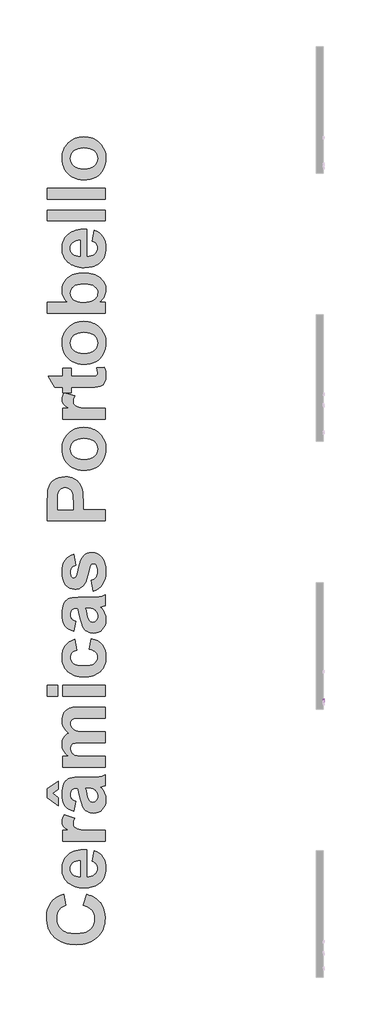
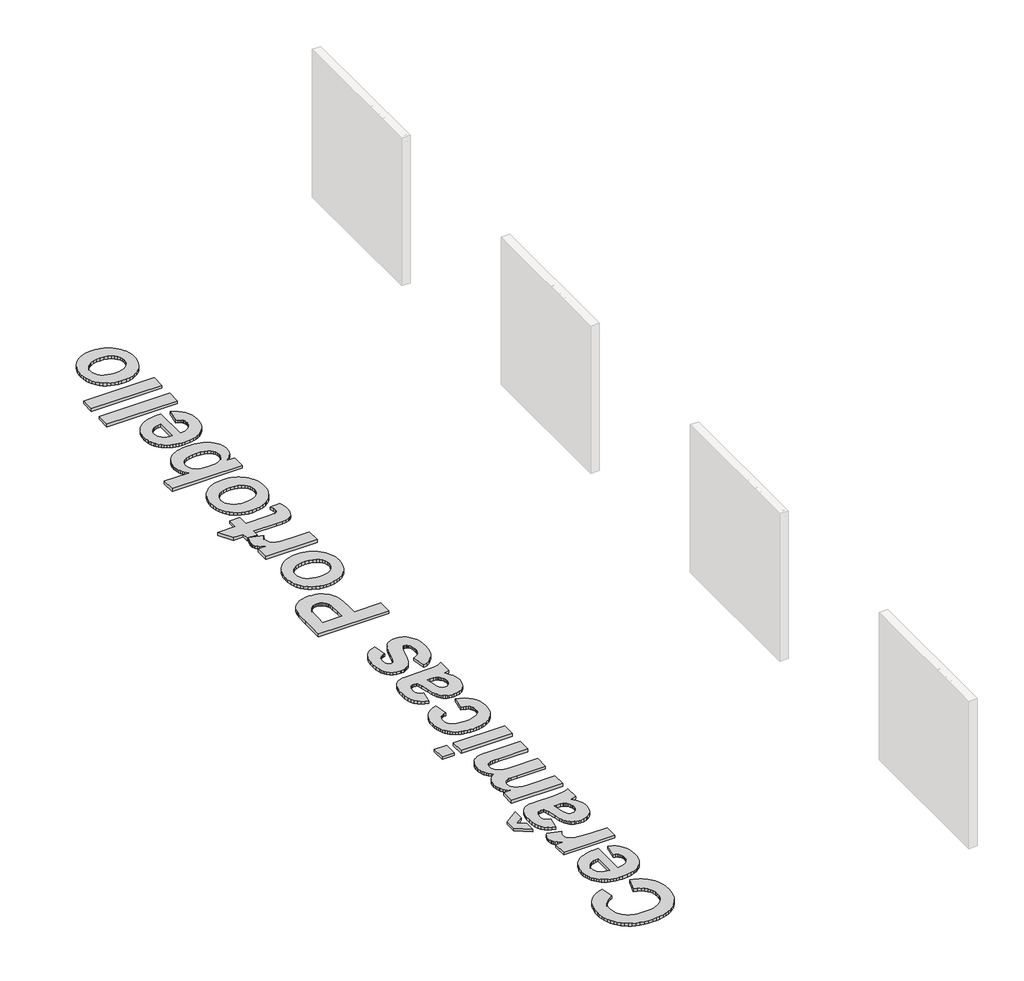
# One storey, part 4 of 9: 2 proxies.
"""IFC4 building model written with IfcOpenShell, lengths in millimetres."""

from ifc_helpers import new_model, si_unit, frame, origin, origin_with_axes, place, context, project, spatial, polyline, outline, extrude, element, save

model = new_model("IFC4")

# Units and contexts
model_context = context("Model", 3, world=origin())
ifc_project = project(units=[si_unit("LENGTHUNIT", "METRE", prefix="MILLI")], contexts=[model_context])

# Site, building, storey
site = spatial("IfcSite", under=ifc_project)
building = spatial("IfcBuilding", under=site)
storey = spatial("IfcBuildingStorey", under=building, Name="PORTOBELLO - SHOWROOM", Elevation=0.0)

# Proxies
placement = place(None, origin())
element("IfcBuildingElementProxy", 1, Name="10mm Arial", ObjectType="10mm Arial", at=placement, inside=storey, context=model_context, shape_type="SweptSolid", body=[
    extrude(outline(polyline([(3761.8829418, 2408.5886452), (3774.4399806, 2410.158275), (3780.0808379, 2398.1775847), (3790.7739412, 2394.4619766), (3800.939747, 2396.8532096), (3807.831403, 2403.2420935), (3811.9394186, 2414.1559261), (3813.7543031, 2428.7240531), (3813.6807267, 2431.1765997), (3803.6375483, 2421.6607188), (3789.8664989, 2418.0064243), (3778.4161718, 2420.2382417), (3768.8849625, 2426.933694), (3762.4562246, 2437.2773095), (3760.313312, 2450.4536163), (3762.5604578, 2464.0652501), (3769.3018954, 2474.7338279), (3779.4278473, 2481.6316153), (3791.8285362, 2483.9308778), (3809.7198639, 2478.682428), (3822.031648, 2463.7218935), (3826.2377655, 2435.6157091), (3822.0439108, 2405.1182917), (3816.8291835, 2395.1272299), (3809.5727111, 2387.8401007), (3800.5871934, 2383.3887285), (3790.18533, 2381.9049378), (3779.4493071, 2383.655443), (3770.883788, 2388.9069585), (3764.8934428, 2397.3283905), (3761.8829418, 2408.5886452)]), holes=[polyline([(3813.6807267, 2450.7479218), (3812.3256947, 2459.2582587), (3808.2605987, 2465.8065582), (3801.9514225, 2469.9820188), (3793.8641499, 2471.373839), (3785.4764404, 2469.8747199), (3778.7564627, 2465.3773625), (3774.3418787, 2458.4949035), (3772.8703507, 2449.8404796), (3774.262171, 2442.0812352), (3778.4376316, 2435.9222774), (3784.9920625, 2431.9031666), (3793.5207934, 2430.563463), (3808.0030813, 2435.9222774), (3812.2613154, 2442.3080957), (3813.6807267, 2450.7479218)])]), frame((-17115.5080774, 0.0, 0.0), z_axis=(1.0, 0.0, 0.0), x_axis=(0.0, 1.0, 0.0)), (0.0, 0.0, 1.0), 20.0),
    extrude(outline(polyline([(3832.5162849, 2383.4745677), (3859.3471451, 2420.5815982), (3834.0859147, 2457.2471704), (3849.1445511, 2457.2471704), (3861.3337079, 2439.5643092), (3867.0481415, 2431.2501761), (3872.0022857, 2438.0682557), (3885.8836997, 2457.2471704), (3900.9913869, 2457.2471704), (3874.4548323, 2420.5570728), (3900.0103683, 2383.4745677), (3884.9272065, 2383.4745677), (3869.5252136, 2405.792742), (3866.7293104, 2409.8884949), (3847.6239722, 2383.4745677), (3832.5162849, 2383.4745677)])), frame((-17115.5080774, 0.0, 0.0), z_axis=(1.0, 0.0, 0.0), x_axis=(0.0, 1.0, 0.0)), (0.0, 0.0, 1.0), 20.0),
    extrude(outline(polyline([(3907.8585175, 2410.158275), (3920.4155563, 2411.7279049), (3927.3440005, 2398.5086785), (3940.3057095, 2394.4619766), (3948.9141482, 2395.8537968), (3955.5605496, 2400.0292574), (3961.2259323, 2413.8125695), (3955.6096005, 2426.798804), (3941.3357791, 2431.9368892), (3932.5311367, 2430.563463), (3933.9290882, 2443.1205018), (3935.9401765, 2442.973349), (3950.1894724, 2446.5785926), (3954.9351502, 2451.152592), (3956.5170427, 2457.6641034), (3951.9307805, 2467.4865526), (3940.1095058, 2471.373839), (3928.1410782, 2467.4497644), (3921.9851861, 2455.6775406), (3909.4281474, 2457.2471704), (3913.1253614, 2468.5227536), (3919.7043178, 2476.9411199), (3928.7051639, 2482.1834383), (3939.6680474, 2483.9308778), (3954.8125228, 2480.4850498), (3965.4075243, 2471.0672707), (3969.0740815, 2458.3998673), (3965.5914653, 2446.8238472), (3955.2907694, 2438.5097141), (3968.9759796, 2429.9258009), (3973.782971, 2413.5918403), (3971.3794753, 2401.3536326), (3964.1689882, 2391.1265132), (3953.2858125, 2384.2103317), (3939.8642511, 2381.9049378), (3927.7241453, 2383.8731065), (3917.8403823, 2389.7776125), (3910.9671204, 2398.8091155), (3907.8585175, 2410.158275)])), frame((-17115.5080774, 0.0, 0.0), z_axis=(1.0, 0.0, 0.0), x_axis=(0.0, 1.0, 0.0)), (0.0, 0.0, 1.0), 20.0),
    extrude(outline(polyline([(3984.77038, 2469.8042092), (3984.77038, 2482.361248), (4050.6948335, 2482.361248), (4050.6948335, 2472.2077049), (4031.9941654, 2445.1929037), (4017.6835558, 2410.7714117), (4013.0237172, 2383.4745677), (4000.4666784, 2383.4745677), (4005.4576108, 2411.8014813), (4019.1550838, 2443.8194776), (4038.1377947, 2469.8042092), (3984.77038, 2469.8042092)])), frame((-17115.5080774, 0.0, 0.0), z_axis=(1.0, 0.0, 0.0), x_axis=(0.0, 1.0, 0.0)), (0.0, 0.0, 1.0), 20.0),
])
element("IfcBuildingElementProxy", 2, Name="1200mm Arial", ObjectType="1200mm Arial", at=placement, inside=storey, context=model_context, shape_type="SweptSolid", body=[
    extrude(outline(polyline([(-22223.5662561, -490.4529479), (-22145.8322066, -257.2507994), (-22098.1475103, -272.210239), (-22053.627402, -289.4565323), (-22012.2718818, -308.9896794), (-21974.0809497, -330.8096802), (-21939.0546057, -354.9165348), (-21907.1928498, -381.3102432), (-21878.4956819, -409.9908053), (-21852.9631021, -440.9582211), (-21830.5097092, -474.1508121), (-21811.050102, -509.5068995), (-21794.5842805, -547.0264835), (-21781.1122448, -586.709564), (-21770.6339948, -628.5561409), (-21763.1495305, -672.5662144), (-21757.161959, -767.0768507), (-21759.7192498, -826.8244634), (-21767.3911223, -883.8487274), (-21780.1775763, -938.1496427), (-21798.078612, -989.7272094), (-21821.0942294, -1038.5814274), (-21849.2244283, -1084.7122967), (-21882.4692089, -1128.1198174), (-21920.8285711, -1168.8039895), (-21963.62405, -1205.6688311), (-22010.1771807, -1237.6183605), (-22060.4879633, -1264.6525776), (-22114.5563976, -1286.7714826), (-22172.3824838, -1303.9750753), (-22233.9662217, -1316.2633559), (-22299.3076115, -1323.6363242), (-22368.4066531, -1326.0939803), (-22441.3867037, -1323.6149739), (-22510.1726077, -1316.1779547), (-22574.7643649, -1303.7829227), (-22635.1619754, -1286.4298779), (-22691.3654392, -1264.1188203), (-22743.3747562, -1236.8497499), (-22791.1899266, -1204.6226666), (-22834.8109502, -1167.4375706), (-22873.7396536, -1126.2101522), (-22907.4778632, -1081.8561018), (-22936.025579, -1034.3754194), (-22959.3828011, -983.768105), (-22977.5495293, -930.0341586), (-22990.5257638, -873.1735802), (-22998.3115045, -813.1863698), (-23000.9067513, -750.0725274), (-22998.7669774, -694.9223448), (-22992.3476556, -642.4290877), (-22981.6487858, -592.5927562), (-22966.6703682, -545.4133501), (-22947.4124027, -500.8908696), (-22923.8748893, -459.0253146), (-22896.057828, -419.8166852), (-22863.9612188, -383.2649812), (-22819.1540677, -343.8475933), (-22765.5031502, -309.7061004), (-22703.0084664, -280.8405024), (-22631.6700161, -257.2507994), (-22592.8029914, -490.4529479), (-22635.5130691, -505.1514395), (-22673.459659, -526.1696182), (-22706.6427609, -553.507484), (-22735.062375, -587.1650369), (-22757.8455113, -625.9656385), (-22774.1191801, -668.7326504), (-22783.8833814, -715.4660725), (-22787.1381152, -766.1659048), (-22781.2264559, -835.4642158), (-22773.8368818, -867.5442192), (-22763.491478, -897.9114546), (-22750.1902446, -926.5659219), (-22733.9331816, -953.5076211), (-22714.7202889, -978.7365523), (-22692.5515666, -1002.2527154), (-22667.0759209, -1023.4962583), (-22637.9422582, -1041.9073288), (-22605.1505783, -1057.4859269), (-22568.7008813, -1070.2320526), (-22528.5931672, -1080.145706), (-22484.827436, -1087.226887), (-22386.3219223, -1092.8918317), (-22282.0565737, -1087.3976893), (-22235.9873829, -1080.5300113), (-22193.9605146, -1070.9152621), (-22155.9759687, -1058.5534416), (-22122.0337452, -1043.44455), (-22092.133844, -1025.5885871), (-22066.2762653, -1004.9855531), (-22043.9296239, -982.1810664), (-22024.5625346, -957.7207459), (-22008.1749976, -931.6045914), (-21994.7670127, -903.8326029), (-21984.3385801, -874.4047805), (-21976.8896996, -843.3211242), (-21970.9305952, -776.1863097), (-21974.7356921, -726.2076428), (-21986.1509828, -679.8158254), (-22005.1764674, -637.0108575), (-22031.8121457, -597.792739), (-22066.627359, -563.0154817), (-22110.1914486, -533.5330975), (-22162.5044143, -509.3455862), (-22223.5662561, -490.4529479)])), origin_with_axes(), (0.0, 0.0, 1.0), 50.0),
    extrude(outline(polyline([(-22029.2311323, 442.3556463), (-21990.3641076, 675.5577949), (-21932.2628398, 650.3549585), (-21881.5440295, 618.7755009), (-21838.2076764, 580.819422), (-21802.2537807, 536.4867219), (-21774.0239471, 485.986159), (-21753.8597802, 429.5264916), (-21741.76128, 367.1077199), (-21737.7284466, 298.7298439), (-21740.1054461, 244.0873238), (-21747.2364444, 193.1170544), (-21759.1214416, 145.8190356), (-21775.7604377, 102.1932675), (-21797.1534326, 62.23975), (-21823.3004264, 25.9584831), (-21854.2014191, -6.6505332), (-21889.8564107, -35.5872988), (-21921.2982776, -55.6565755), (-21954.7423276, -73.0499486), (-21990.1885607, -87.7674182), (-22027.636977, -99.8089842), (-22108.5403591, -115.8644056), (-22197.4524739, -121.2162127), (-22251.3690839, -119.441766), (-22302.2871637, -114.118426), (-22350.2067133, -105.2461925), (-22395.1277326, -92.8250657), (-22437.0502217, -76.8550456), (-22475.9741806, -57.336132), (-22511.8996093, -34.2683251), (-22544.8265077, -7.6516248), (-22574.2899139, 21.6789352), (-22599.824866, 52.888321), (-22621.4313638, 85.9765328), (-22639.1094076, 120.9435704), (-22652.8589971, 157.789434), (-22662.6801326, 196.5141235), (-22668.5728138, 237.1176388), (-22670.5370409, 279.5999801), (-22668.5206242, 327.0498232), (-22662.4713741, 371.928142), (-22652.3892907, 414.2349364), (-22638.2743738, 453.9702064), (-22620.1266236, 491.1339522), (-22597.94604, 525.7261735), (-22571.7326231, 557.7468706), (-22541.4863727, 587.1960433), (-22507.0744427, 613.5233285), (-22468.3639868, 636.178363), (-22425.3550049, 655.161147), (-22378.0474971, 670.4716803), (-22326.4414634, 682.109963), (-22270.5369037, 690.075995), (-22210.3338181, 694.3697764), (-22145.8322066, 694.9913072), (-22145.8322066, 111.9859358), (-22093.6425982, 116.3319069), (-22047.6018745, 126.9406309), (-22007.7100356, 143.812108), (-21973.9670815, 166.946338), (-21947.1321337, 194.825078), (-21927.9643139, 225.9300846), (-21916.463622, 260.2613579), (-21912.6300581, 297.818898), (-21914.3570596, 323.344361), (-21919.5380644, 346.7822397), (-21928.1730724, 368.1325341), (-21940.2620835, 387.3952441), (-21956.1846586, 404.4944576), (-21976.3203584, 419.3542625), (-22000.669183, 431.9746587), (-22029.2311323, 442.3556463)]), holes=[polyline([(-22281.8667933, 461.7891587), (-22331.1053166, 457.632968), (-22374.0621088, 447.5935852), (-22410.7371701, 431.6710101), (-22441.1305002, 409.8652428), (-22464.9764068, 383.7894166), (-22482.0091971, 355.0566649), (-22492.2288714, 323.6669877), (-22495.6354295, 289.6203849), (-22492.04858, 253.4482418), (-22481.2880316, 220.5403214), (-22463.3537844, 190.8966238), (-22438.2458382, 164.517149), (-22406.8371829, 143.0340083), (-22370.304457, 127.7756646), (-22328.6476605, 118.7421179), (-22281.8667933, 115.933368), (-22281.8667933, 461.7891587)])]), origin_with_axes(), (0.0, 0.0, 1.0), 50.0),
    extrude(outline(polyline([(-21757.161959, 1103.0950672), (-21757.161959, 869.8929187), (-22651.1035285, 869.8929187), (-22651.1035285, 1103.0950672), (-22526.6075898, 1103.0950672), (-22599.824866, 1152.3620576), (-22625.0751474, 1175.0028586), (-22642.7531911, 1196.3151969), (-22654.9086254, 1217.6844693), (-22663.5910784, 1240.4960727), (-22668.8005503, 1264.7500071), (-22670.5370409, 1290.4462725), (-22667.4625985, 1327.1687788), (-22658.2392713, 1363.2460318), (-22642.8670594, 1398.6780314), (-22621.3459627, 1433.4647777), (-22399.3788135, 1365.4474844), (-22415.984598, 1336.8286009), (-22427.8458726, 1309.2724876), (-22434.9626374, 1282.7791446), (-22437.3348923, 1257.3485717), (-22435.6743139, 1233.9960942), (-22430.6925785, 1212.5224426), (-22422.3896863, 1192.9276169), (-22410.7656371, 1175.2116171), (-22394.814595, 1159.3269981), (-22373.5307237, 1145.2263148), (-22346.9140234, 1132.9095672), (-22314.9644941, 1122.3767553), (-22270.8595304, 1113.9410168), (-22207.7765273, 1107.9154892), (-22024.6764029, 1103.0950672), (-21757.161959, 1103.0950672)])), origin_with_axes(), (0.0, 0.0, 1.0), 50.0),
    extrude(outline(polyline([(-22379.0343552, 1724.9674634), (-22417.9013799, 1511.1988272), (-22478.099721, 1531.2870819), (-22529.9477248, 1557.5431995), (-22573.4453911, 1589.9671799), (-22608.5927202, 1628.5590231), (-22635.6933605, 1675.2734671), (-22655.0509607, 1732.0652501), (-22666.6655208, 1798.9343721), (-22670.5370409, 1875.880833), (-22668.193253, 1945.663084), (-22661.1618894, 2005.9183592), (-22649.4429501, 2056.6466586), (-22633.036435, 2097.8479822), (-22613.0335814, 2131.5909363), (-22590.5256266, 2159.9441272), (-22565.5125707, 2182.9075549), (-22537.9944135, 2200.4812194), (-22503.1981782, 2213.5001545), (-22456.3508878, 2222.7993938), (-22397.4525424, 2228.3789374), (-22326.503142, 2230.2387853), (-22050.7901851, 2230.2387853), (-21948.4605965, 2233.3132277), (-21877.1031682, 2242.5365548), (-21819.1821919, 2260.1861315), (-21757.161959, 2288.5393224), (-21757.161959, 2055.3371738), (-21831.252225, 2033.4744724), (-21860.7061422, 2025.2759594), (-21831.9449234, 1995.6132838), (-21806.9982906, 1964.925794), (-21785.8662437, 1933.2134901), (-21768.5487827, 1900.4763721), (-21755.0648857, 1866.6764838), (-21745.4335306, 1831.7758693), (-21739.6547176, 1795.7745285), (-21737.7284466, 1758.6724614), (-21742.4065334, 1695.6938376), (-21756.4407935, 1639.7560663), (-21779.8312271, 1590.8591477), (-21812.5778342, 1549.0030818), (-21852.460184, 1515.4593971), (-21897.2578461, 1491.4996223), (-21946.9708204, 1477.1237574), (-22001.5991069, 1472.3318024), (-22038.3785473, 1474.4668319), (-22073.1083595, 1480.8719202), (-22105.7885434, 1491.5470674), (-22136.4190991, 1506.4922734), (-22164.297839, 1525.2900215), (-22188.7225757, 1547.5227947), (-22209.6933093, 1573.190593), (-22227.2100397, 1602.2934165), (-22242.4873615, 1636.5108216), (-22256.7398691, 1677.5223648), (-22282.1704419, 1779.9278656), (-22312.1557442, 1912.5464051), (-22326.4082518, 1960.8075594), (-22340.1673304, 1997.0366367), (-22364.7628695, 1997.0366367), (-22397.5948777, 1995.2242339), (-22425.3407714, 1989.7870256), (-22448.0005505, 1980.7250118), (-22465.574215, 1968.0381925), (-22478.7259963, 1950.3411707), (-22488.1201258, 1926.2485496), (-22493.7566036, 1895.7603293), (-22495.6354295, 1858.8765096), (-22494.0222961, 1833.1992223), (-22489.1828961, 1810.5204652), (-22481.1172293, 1790.8402383), (-22469.8252958, 1774.1585416), (-22454.4720619, 1759.6972755), (-22434.2224939, 1746.6783405), (-22379.0343552, 1724.9674634)]), holes=[polyline([(-22165.265719, 1997.0366367), (-22150.34898, 1943.3667412), (-22132.9271398, 1865.5567795), (-22114.3666172, 1791.1628649), (-22096.0338311, 1747.7411107), (-22080.4528608, 1729.2754783), (-22062.8602182, 1716.0857409), (-22043.2559035, 1708.1718985), (-22021.6399166, 1705.533951), (-22000.2231991, 1707.6500024), (-21980.3057467, 1713.9981566), (-21961.8875594, 1724.5784136), (-21944.9686373, 1739.3907734), (-21930.8205089, 1757.4673559), (-21920.7147029, 1777.8402812), (-21914.6512193, 1800.5095494), (-21912.6300581, 1825.4751602), (-21914.9833349, 1854.4166704), (-21922.0431656, 1882.637015), (-21933.8095501, 1910.1361941), (-21950.2824883, 1936.9142078), (-21965.3510516, 1954.9433452), (-21982.0137702, 1969.5564356), (-22000.2706442, 1980.7534789), (-22020.1216734, 1988.534475), (-22059.368259, 1994.9110963), (-22123.0585593, 1997.0366367), (-22165.265719, 1997.0366367)])]), origin_with_axes(), (0.0, 0.0, 1.0), 50.0),
    extrude(outline(polyline([(-22748.2710904, 1627.7999015), (-22981.473239, 1794.1993512), (-22981.473239, 1988.534475), (-22748.2710904, 2152.5047357), (-22748.2710904, 1977.6031243), (-22864.8721647, 1890.1523186), (-22748.2710904, 1802.7015129), (-22748.2710904, 1627.7999015)])), origin_with_axes(), (0.0, 0.0, 1.0), 50.0),
    extrude(outline(polyline([(-22651.1035285, 2444.0074215), (-22651.1035285, 2677.20957), (-22531.4659679, 2677.20957), (-22564.0607506, 2705.2638568), (-22592.3095623, 2734.6181393), (-22616.212403, 2765.2724175), (-22635.7692726, 2797.2266914), (-22650.9801712, 2830.480961), (-22661.8450988, 2865.0352263), (-22668.3640554, 2900.8894873), (-22670.5370409, 2938.043744), (-22668.4020114, 2976.9392358), (-22661.9969231, 3013.1588241), (-22651.321776, 3046.7025088), (-22636.3765699, 3077.5702899), (-22617.1043709, 3105.7811455), (-22593.4482447, 3131.3540537), (-22565.4081914, 3154.2890143), (-22532.9842111, 3174.5860275), (-22565.4081914, 3203.8596533), (-22593.4482447, 3234.2909395), (-22617.1043709, 3265.8798862), (-22636.3765699, 3298.6264932), (-22651.321776, 3332.5117826), (-22661.9969231, 3367.5167764), (-22668.4020114, 3403.6414744), (-22670.5370409, 3440.8858768), (-22668.0414287, 3487.0214907), (-22660.5545921, 3529.4753649), (-22648.0765312, 3568.2474995), (-22630.6072459, 3603.3378944), (-22608.2985606, 3634.4998351), (-22581.3022995, 3661.4866072), (-22549.6184626, 3684.2982106), (-22513.2470501, 3702.9346453), (-22480.2821956, 3713.2966549), (-22438.4735747, 3720.6980902), (-22387.8211874, 3725.1389515), (-22328.3250338, 3726.6192385), (-21757.161959, 3726.6192385), (-21757.161959, 3493.41709), (-22271.8463885, 3493.41709), (-22332.8607852, 3491.9368029), (-22381.9949293, 3487.4959417), (-22419.2488207, 3480.0945063), (-22444.6224595, 3469.7324968), (-22466.9406338, 3451.7792715), (-22482.882187, 3429.4990532), (-22492.4471188, 3402.8918419), (-22495.6354295, 3371.9576376), (-22493.7281365, 3348.3204895), (-22488.0062576, 3325.3855288), (-22478.4697928, 3303.1527556), (-22465.1187421, 3281.6221699), (-22448.0859517, 3261.922965), (-22427.5042679, 3245.1843342), (-22403.3736908, 3231.4062776), (-22375.6942202, 3220.5887951), (-22341.9702442, 3212.4187491), (-22299.7061503, 3206.583002), (-22189.5576095, 3201.9144043), (-21757.161959, 3201.9144043), (-21757.161959, 2968.7122557), (-22250.5909843, 2968.7122557), (-22358.727853, 2965.6757694), (-22395.289046, 2961.8801615), (-22420.1787447, 2956.5663105), (-22453.4282698, 2941.1181864), (-22476.9610387, 2919.0657046), (-22490.9668318, 2889.1183583), (-22495.6354295, 2849.985641), (-22493.7850706, 2824.3842658), (-22488.2339941, 2800.1113534), (-22478.9821999, 2777.1669037), (-22466.0296879, 2755.5509168), (-22449.5757278, 2736.0794483), (-22429.8195887, 2719.568554), (-22406.7612708, 2706.0182339), (-22380.400774, 2695.4284879), (-22347.7870133, 2687.4577113), (-22305.9689034, 2681.7642995), (-22194.7196362, 2677.20957), (-21757.161959, 2677.20957), (-21757.161959, 2444.0074215), (-22651.1035285, 2444.0074215)])), origin_with_axes(), (0.0, 0.0, 1.0), 50.0),
    extrude(outline(polyline([(-22767.7046028, 3959.8213871), (-22981.473239, 3959.8213871), (-22981.473239, 4193.0235357), (-22767.7046028, 4193.0235357), (-22767.7046028, 3959.8213871)])), origin_with_axes(), (0.0, 0.0, 1.0), 50.0),
    extrude(outline(polyline([(-21757.161959, 3959.8213871), (-22651.1035285, 3959.8213871), (-22651.1035285, 4193.0235357), (-21757.161959, 4193.0235357), (-21757.161959, 3959.8213871)])), origin_with_axes(), (0.0, 0.0, 1.0), 50.0),
    extrude(outline(polyline([(-22398.4678676, 5164.6991547), (-22359.6008428, 4931.4970061), (-22391.3605918, 4924.2948401), (-22418.9261941, 4913.619693), (-22442.2976496, 4899.4715646), (-22461.4749585, 4881.8504549), (-22476.4201645, 4861.0410347), (-22487.0953117, 4837.3279744), (-22493.5004, 4810.7112741), (-22495.6354295, 4781.1909338), (-22491.6310631, 4742.1341286), (-22479.6179642, 4707.2524922), (-22459.5961326, 4676.5460244), (-22431.5655683, 4650.0147252), (-22394.1598526, 4628.6264748), (-22346.0125666, 4613.349153), (-22287.1237102, 4604.18276), (-22217.4932835, 4601.1272956), (-22140.1198167, 4604.3061173), (-22075.0061635, 4613.8425821), (-22022.1523236, 4629.7366901), (-21981.5582973, 4651.9884413), (-21951.4021926, 4679.5919997), (-21929.8621179, 4711.5415291), (-21916.938073, 4747.8370295), (-21912.6300581, 4788.4785009), (-21915.0877142, 4819.0616115), (-21922.4606825, 4846.741082), (-21934.748963, 4871.5169125), (-21951.9525558, 4893.3891029), (-21975.172187, 4912.3007192), (-22005.508583, 4928.1948272), (-22042.9617439, 4941.071427), (-22087.5316695, 4950.9305185), (-22048.6646447, 5184.132667), (-21976.4057596, 5162.6400374), (-21913.57896, 5133.081741), (-21860.1842461, 5095.4577778), (-21816.2216177, 5049.7681479), (-21797.8247808, 5023.8512628), (-21781.8808554, 4995.8230708), (-21757.3517394, 4933.4327661), (-21742.6342698, 4862.5972339), (-21737.7284466, 4783.3164742), (-21739.6594621, 4737.0741089), (-21745.4525087, 4693.23721), (-21755.1075862, 4651.8057777), (-21768.6246948, 4612.7798119), (-21786.0038344, 4576.1593125), (-21807.2450051, 4541.9442797), (-21832.3482067, 4510.1347133), (-21861.3134394, 4480.7306135), (-21893.6899747, 4454.2918323), (-21929.0270841, 4431.3782219), (-21967.3247677, 4411.9897824), (-22008.5830254, 4396.1265137), (-22052.8018573, 4383.7884158), (-22099.9812633, 4374.9754887), (-22150.1212435, 4369.6877325), (-22203.2217979, 4367.9251471), (-22256.9557443, 4369.6758712), (-22307.6294818, 4374.9280436), (-22355.2430105, 4383.6816643), (-22399.7963303, 4395.9367333), (-22441.2894413, 4411.6932505), (-22479.7223434, 4430.951216), (-22515.0950366, 4453.7106298), (-22547.407521, 4479.9714919), (-22576.2660022, 4509.2213952), (-22601.276686, 4540.9479326), (-22622.4395722, 4575.1511042), (-22639.7546609, 4611.8309099), (-22653.2219522, 4650.9873497), (-22662.8414459, 4692.6204238), (-22668.6131421, 4736.7301319), (-22670.5370409, 4783.3164742), (-22666.3334051, 4857.5016304), (-22653.7224979, 4923.6780539), (-22632.7043193, 4981.8457447), (-22603.2788691, 5032.0047029), (-22565.2563671, 5074.9140501), (-22518.4470329, 5111.3329078), (-22462.8508663, 5141.261276), (-22398.4678676, 5164.6991547)])), origin_with_axes(), (0.0, 0.0, 1.0), 50.0),
    extrude(outline(polyline([(-22379.0343552, 5553.3694023), (-22417.9013799, 5339.6007661), (-22478.099721, 5359.6890208), (-22529.9477248, 5385.9451384), (-22573.4453911, 5418.3691188), (-22608.5927202, 5456.9609619), (-22635.6933605, 5503.675406), (-22655.0509607, 5560.467189), (-22666.6655208, 5627.336311), (-22670.5370409, 5704.2827718), (-22668.193253, 5774.0650228), (-22661.1618894, 5834.320298), (-22649.4429501, 5885.0485975), (-22633.036435, 5926.2499211), (-22613.0335814, 5959.9928752), (-22590.5256266, 5988.3460661), (-22565.5125707, 6011.3094938), (-22537.9944135, 6028.8831583), (-22503.1981782, 6041.9020934), (-22456.3508878, 6051.2013327), (-22397.4525424, 6056.7808763), (-22326.503142, 6058.6407242), (-22050.7901851, 6058.6407242), (-21948.4605965, 6061.7151665), (-21877.1031682, 6070.9384937), (-21819.1821919, 6088.5880704), (-21757.161959, 6116.9412613), (-21757.161959, 5883.7391127), (-21831.252225, 5861.8764113), (-21860.7061422, 5853.6778983), (-21831.9449234, 5824.0152226), (-21806.9982906, 5793.3277329), (-21785.8662437, 5761.615429), (-21768.5487827, 5728.878311), (-21755.0648857, 5695.0784227), (-21745.4335306, 5660.1778082), (-21739.6547176, 5624.1764674), (-21737.7284466, 5587.0744003), (-21742.4065334, 5524.0957764), (-21756.4407935, 5468.1580052), (-21779.8312271, 5419.2610866), (-21812.5778342, 5377.4050206), (-21852.460184, 5343.8613359), (-21897.2578461, 5319.9015612), (-21946.9708204, 5305.5256963), (-22001.5991069, 5300.7337413), (-22038.3785473, 5302.8687708), (-22073.1083595, 5309.2738591), (-22105.7885434, 5319.9490063), (-22136.4190991, 5334.8942123), (-22164.297839, 5353.6919604), (-22188.7225757, 5375.9247336), (-22209.6933093, 5401.5925319), (-22227.2100397, 5430.6953554), (-22242.4873615, 5464.9127605), (-22256.7398691, 5505.9243037), (-22282.1704419, 5608.3298045), (-22312.1557442, 5740.948344), (-22326.4082518, 5789.2094983), (-22340.1673304, 5825.4385756), (-22364.7628695, 5825.4385756), (-22397.5948777, 5823.6261728), (-22425.3407714, 5818.1889645), (-22448.0005505, 5809.1269507), (-22465.574215, 5796.4401313), (-22478.7259963, 5778.7431096), (-22488.1201258, 5754.6504885), (-22493.7566036, 5724.1622682), (-22495.6354295, 5687.2784485), (-22494.0222961, 5661.6011612), (-22489.1828961, 5638.922404), (-22481.1172293, 5619.2421771), (-22469.8252958, 5602.5604805), (-22454.4720619, 5588.0992144), (-22434.2224939, 5575.0802794), (-22379.0343552, 5553.3694023)]), holes=[polyline([(-22165.265719, 5825.4385756), (-22150.34898, 5771.7686801), (-22132.9271398, 5693.9587184), (-22114.3666172, 5619.5648038), (-22096.0338311, 5576.1430496), (-22080.4528608, 5557.6774172), (-22062.8602182, 5544.4876798), (-22043.2559035, 5536.5738374), (-22021.6399166, 5533.9358899), (-22000.2231991, 5536.0519413), (-21980.3057467, 5542.4000955), (-21961.8875594, 5552.9803525), (-21944.9686373, 5567.7927122), (-21930.8205089, 5585.8692948), (-21920.7147029, 5606.2422201), (-21914.6512193, 5628.9114882), (-21912.6300581, 5653.8770991), (-21914.9833349, 5682.8186092), (-21922.0431656, 5711.0389539), (-21933.8095501, 5738.538133), (-21950.2824883, 5765.3161467), (-21965.3510516, 5783.3452841), (-21982.0137702, 5797.9583745), (-22000.2706442, 5809.1554178), (-22020.1216734, 5816.9364139), (-22059.368259, 5823.3130352), (-22123.0585593, 5825.4385756), (-22165.265719, 5825.4385756)])]), origin_with_axes(), (0.0, 0.0, 1.0), 50.0),
    extrude(outline(polyline([(-22009.79762, 6194.6753108), (-22048.6646447, 6427.8774594), (-22017.2749675, 6437.0723195), (-21989.9086346, 6450.0817655), (-21966.5656461, 6466.9057975), (-21947.246002, 6487.5444154), (-21932.1015265, 6512.3202458), (-21921.284044, 6541.5559156), (-21914.7935546, 6575.2514246), (-21912.6300581, 6613.4067729), (-21914.6986644, 6655.1394816), (-21920.9044832, 6691.3685589), (-21931.2475147, 6722.0940047), (-21945.7277588, 6747.3158191), (-21958.2532649, 6760.6004467), (-21972.752487, 6770.0894664), (-21989.2254252, 6775.7828783), (-22007.6720795, 6777.6806822), (-22031.8121457, 6773.6573379), (-22051.3974824, 6761.5873048), (-22067.4149477, 6734.0311915), (-22082.0659941, 6685.3714984), (-22112.5447255, 6560.1354162), (-22141.7329501, 6460.1401264), (-22169.6306681, 6385.3856291), (-22196.2378794, 6335.8719242), (-22215.1827072, 6311.8884269), (-22235.8830037, 6291.1027292), (-22258.3387689, 6273.5148311), (-22282.5500027, 6259.1247327), (-22308.5167052, 6247.932434), (-22336.2388763, 6239.9379349), (-22365.716516, 6235.1412354), (-22396.9496244, 6233.5423356), (-22452.4983458, 6239.026989), (-22503.4543817, 6255.4809492), (-22549.817732, 6282.9042161), (-22591.5883968, 6321.2967899), (-22610.0919853, 6344.7489021), (-22626.1284286, 6371.2280117), (-22639.6977268, 6400.7341185), (-22650.7998799, 6433.2672226), (-22665.6027506, 6507.4144226), (-22670.5370409, 6593.6696119), (-22666.5516526, 6675.7875885), (-22654.5954878, 6746.6326097), (-22634.6685464, 6806.2046755), (-22606.7708284, 6854.5037858), (-22571.0541582, 6893.8452616), (-22527.67036, 6926.5444235), (-22476.6194339, 6952.6012717), (-22417.9013799, 6972.015806), (-22379.0343552, 6738.8136575), (-22405.6225884, 6731.5640464), (-22428.9086428, 6721.6575098), (-22448.8925183, 6709.0940477), (-22465.574215, 6693.8736601), (-22478.7259963, 6675.5788301), (-22488.1201258, 6653.7920408), (-22493.7566036, 6628.5132923), (-22495.6354295, 6599.7425845), (-22494.0412741, 6563.7791998), (-22489.2588082, 6533.3194465), (-22481.2880316, 6508.3633246), (-22470.1289445, 6488.9108342), (-22449.1771889, 6472.2860717), (-22422.759758, 6466.7444841), (-22399.9101986, 6472.2860717), (-22380.5525983, 6488.9108342), (-22367.8183339, 6512.9654992), (-22352.6928364, 6555.3719283), (-22315.2681427, 6695.2400789), (-22292.9309903, 6776.8551375), (-22268.1266927, 6845.1286344), (-22240.8552501, 6900.0605695), (-22211.1166623, 6941.6509429), (-22176.5956085, 6971.9398939), (-22135.887714, 6993.5748588), (-22088.9929785, 7006.5558378), (-22035.9114022, 7010.8828308), (-22005.8573045, 7009.3147703), (-21976.8802106, 7004.6105887), (-21948.9801203, 6996.7702862), (-21922.1570339, 6985.7938627), (-21896.4109511, 6971.6813181), (-21871.7418721, 6954.4326525), (-21825.6347253, 6910.5269583), (-21805.0316912, 6883.9316082), (-21787.1757284, 6854.3234945), (-21772.0668367, 6821.7026169), (-21759.7050163, 6786.0689757), (-21750.0902671, 6747.4225706), (-21743.2225891, 6705.7634018), (-21737.7284466, 6613.4067729), (-21742.3021541, 6528.7931841), (-21756.0232766, 6453.4978126), (-21778.8918142, 6387.5206585), (-21810.9077667, 6330.8617218), (-21850.7806275, 6283.3502001), (-21897.21989, 6244.815291), (-21950.2255542, 6215.2569946), (-22009.79762, 6194.6753108)])), origin_with_axes(), (0.0, 0.0, 1.0), 50.0),
    extrude(outline(polyline([(-21757.161959, 7691.0557641), (-22981.473239, 7691.0557641), (-22981.473239, 8085.4953357), (-22976.9185095, 8270.7969127), (-22971.2250977, 8334.1266303), (-22963.2543211, 8377.9089673), (-22945.5572993, 8428.1533267), (-22919.7946108, 8474.1276272), (-22885.9662555, 8515.8318689), (-22844.0722335, 8553.2660516), (-22794.8147321, 8584.1528108), (-22738.8959389, 8606.2147817), (-22676.3158539, 8619.4519642), (-22607.074477, 8623.8643583), (-22553.2812242, 8621.273856), (-22503.9478107, 8613.5023488), (-22459.0742365, 8600.5498369), (-22418.6605015, 8582.4163202), (-22382.5263144, 8560.2879262), (-22350.4913839, 8535.3507824), (-22322.5557098, 8507.6048888), (-22298.7192923, 8477.0502453), (-22278.7638838, 8444.9678696), (-22262.471237, 8412.6387794), (-22249.8413517, 8380.0629747), (-22240.8742281, 8347.2404555), (-22233.3019904, 8297.423102), (-22227.8932491, 8237.5473876), (-22223.5662561, 8087.6208761), (-22223.5662561, 7924.2579126), (-21757.161959, 7924.2579126), (-21757.161959, 7691.0557641)]), holes=[polyline([(-22767.7046028, 7924.2579126), (-22437.3348923, 7924.2579126), (-22437.3348923, 8069.0983096), (-22441.8896218, 8199.5533527), (-22447.5830336, 8245.3378728), (-22455.5538102, 8278.160392), (-22465.9632648, 8303.0785578), (-22478.9727108, 8325.1500176), (-22494.5821483, 8344.3747716), (-22512.7915771, 8360.7528196), (-22533.0885903, 8373.8381778), (-22554.9607807, 8383.1848622), (-22578.4081484, 8388.7928729), (-22603.4306934, 8390.6622098), (-22633.7765785, 8388.0337513), (-22661.3516698, 8380.1483759), (-22686.1559673, 8367.0060836), (-22708.1894711, 8348.6068744), (-22726.901818, 8326.2032988), (-22741.7426448, 8301.0479076), (-22752.7119516, 8273.1407006), (-22759.8097384, 8242.4816779), (-22765.7308867, 8171.2001618), (-22767.7046028, 8052.0939863), (-22767.7046028, 7924.2579126)])]), origin_with_axes(), (0.0, 0.0, 1.0), 50.0),
    extrude(outline(polyline([(-22216.8859863, 8759.898945), (-22275.1770344, 8763.4952835), (-22332.5381586, 8774.2842989), (-22388.9693588, 8792.2659912), (-22444.4706351, 8817.4403606), (-22496.2522157, 8849.2001095), (-22541.5243288, 8886.937941), (-22580.2869744, 8930.6538548), (-22612.5401524, 8980.3478511), (-22637.9137911, 9034.5681097), (-22656.0378188, 9091.8628108), (-22666.9122353, 9152.2319542), (-22670.5370409, 9215.67554), (-22668.4826681, 9264.7930783), (-22662.3195498, 9311.6379964), (-22652.047686, 9356.2102943), (-22637.6670766, 9398.5099719), (-22619.1777217, 9438.5370294), (-22596.5796212, 9476.2914666), (-22569.8727752, 9511.7732835), (-22539.0571837, 9544.9824803), (-22505.1007266, 9575.0508115), (-22468.9712841, 9601.1100319), (-22430.668856, 9623.1601415), (-22390.1934424, 9641.2011402), (-22347.5450432, 9655.2330281), (-22302.7236586, 9665.2558052), (-22255.7292885, 9671.2694714), (-22206.5619328, 9673.2740269), (-22157.0126441, 9671.2481212), (-22109.6315964, 9665.170404), (-22064.4187897, 9655.0408755), (-22021.374224, 9640.8595355), (-21980.4978993, 9622.6263841), (-21941.7898156, 9600.3414213), (-21905.249973, 9574.0046471), (-21870.8783713, 9543.6160614), (-21839.6713577, 9510.1577779), (-21812.6252793, 9474.6119101), (-21789.740136, 9436.9784579), (-21771.0159278, 9397.2574213), (-21756.4526548, 9355.4488005), (-21746.0503169, 9311.5525953), (-21739.8089142, 9265.5688057), (-21737.7284466, 9217.4974318), (-21741.1919388, 9157.3275578), (-21751.5824154, 9098.5810367), (-21768.8998764, 9041.2578686), (-21793.1443218, 8985.3580535), (-21824.0880151, 8933.4720937), (-21861.5032198, 8888.1904916), (-21905.389936, 8849.5132472), (-21955.7481636, 8817.4403606), (-22012.2647651, 8792.2659912), (-22074.6266027, 8774.2842989), (-22142.8336764, 8763.4952835), (-22216.8859863, 8759.898945)]), holes=[polyline([(-22204.1327438, 8993.1010936), (-22137.6621606, 8997.1339269), (-22079.4470247, 9009.2324271), (-22029.4873359, 9029.396594), (-21987.7830942, 9057.6264276), (-21954.9036409, 9091.7774096), (-21931.4183171, 9129.7050214), (-21917.3271228, 9171.4092631), (-21912.6300581, 9216.8901346), (-21917.3271228, 9262.352028), (-21931.4183171, 9303.9993356), (-21954.9036409, 9341.8320572), (-21987.7830942, 9375.8501929), (-22029.6012041, 9403.9471802), (-22079.9024976, 9424.0164569), (-22138.6869748, 9436.058023), (-22205.9546355, 9440.0718783), (-22271.628141, 9436.058023), (-22329.2739358, 9424.0164569), (-22378.8920199, 9403.9471802), (-22420.4823933, 9375.8501929), (-22453.3618466, 9341.8320572), (-22476.8471704, 9303.9993356), (-22490.9383647, 9262.352028), (-22495.6354295, 9216.8901346), (-22490.9383647, 9171.4092631), (-22476.8471704, 9129.7050214), (-22453.3618466, 9091.7774096), (-22420.4823933, 9057.6264276), (-22378.7781516, 9029.396594), (-22328.8184628, 9009.2324271), (-22270.6033269, 8997.1339269), (-22204.1327438, 8993.1010936)])]), origin_with_axes(), (0.0, 0.0, 1.0), 50.0),
    extrude(outline(polyline([(-22651.1035285, 10936.4523316), (-22476.2019171, 10936.4523316), (-22476.2019171, 10761.5507201), (-22092.6936962, 10761.5507201), (-22000.6502049, 10762.8791829), (-21957.1145825, 10766.8645712), (-21939.5029619, 10775.5565132), (-21925.2314762, 10791.0046373), (-21915.7804126, 10811.8804807), (-21912.6300581, 10836.8555806), (-21918.2475577, 10883.0101725), (-21935.1000567, 10946.1690878), (-21769.3079043, 10955.8858439), (-21755.4918915, 10912.2932874), (-21745.623311, 10865.929937), (-21739.7021627, 10816.7957929), (-21737.7284466, 10764.8908551), (-21743.194122, 10702.7947101), (-21759.5911481, 10647.0751863), (-21784.6421601, 10601.5658477), (-21799.5588991, 10584.0775844), (-21816.0697934, 10570.1002583), (-21856.8346221, 10549.3382832), (-21909.8972204, 10535.9397874), (-21973.2838721, 10530.2463755), (-22079.6368051, 10528.3485716), (-22476.2019171, 10528.3485716), (-22476.2019171, 10411.7474973), (-22621.3459627, 10411.7474973), (-22651.1035285, 10411.7474973), (-22651.1035285, 10528.3485716), (-22826.0051399, 10528.3485716), (-22962.0397266, 10761.5507201), (-22651.1035285, 10761.5507201), (-22651.1035285, 10936.4523316)])), origin_with_axes(), (0.0, 0.0, 1.0), 50.0),
    extrude(outline(polyline([(-21757.161959, 10081.3777868), (-21757.161959, 9848.1756383), (-22651.1035285, 9848.1756383), (-22651.1035285, 10081.3777868), (-22526.6075898, 10081.3777868), (-22599.824866, 10130.6447772), (-22625.0751474, 10153.2855783), (-22642.7531911, 10174.5979165), (-22654.9086254, 10195.9671889), (-22663.5910784, 10218.7787923), (-22668.8005503, 10243.0327267), (-22670.5370409, 10268.7289921), (-22667.4625985, 10305.4514984), (-22658.2392713, 10341.5287514), (-22642.8670594, 10376.960751), (-22621.3459627, 10411.7474973), (-22399.3788135, 10343.730204), (-22415.984598, 10315.1113205), (-22427.8458726, 10287.5552073), (-22434.9626374, 10261.0618642), (-22437.3348923, 10235.6312914), (-22435.6743139, 10212.2788138), (-22430.6925785, 10190.8051622), (-22422.3896863, 10171.2103365), (-22410.7656371, 10153.4943367), (-22394.814595, 10137.6097177), (-22373.5307237, 10123.5090344), (-22346.9140234, 10111.1922868), (-22314.9644941, 10100.6594749), (-22270.8595304, 10092.2237364), (-22207.7765273, 10086.1982089), (-22024.6764029, 10081.3777868), (-21757.161959, 10081.3777868)])), origin_with_axes(), (0.0, 0.0, 1.0), 50.0),
    extrude(outline(polyline([(-22216.8859863, 11014.1863811), (-22275.1770344, 11017.7827196), (-22332.5381586, 11028.571735), (-22388.9693588, 11046.5534273), (-22444.4706351, 11071.7277967), (-22496.2522157, 11103.4875456), (-22541.5243288, 11141.2253771), (-22580.2869744, 11184.9412909), (-22612.5401524, 11234.6352872), (-22637.9137911, 11288.8555458), (-22656.0378188, 11346.1502469), (-22666.9122353, 11406.5193903), (-22670.5370409, 11469.9629761), (-22668.4826681, 11519.0805144), (-22662.3195498, 11565.9254325), (-22652.047686, 11610.4977304), (-22637.6670766, 11652.797408), (-22619.1777217, 11692.8244655), (-22596.5796212, 11730.5789027), (-22569.8727752, 11766.0607196), (-22539.0571837, 11799.2699164), (-22505.1007266, 11829.3382476), (-22468.9712841, 11855.397468), (-22430.668856, 11877.4475776), (-22390.1934424, 11895.4885763), (-22347.5450432, 11909.5204642), (-22302.7236586, 11919.5432413), (-22255.7292885, 11925.5569075), (-22206.5619328, 11927.561463), (-22157.0126441, 11925.5355572), (-22109.6315964, 11919.4578401), (-22064.4187897, 11909.3283116), (-22021.374224, 11895.1469716), (-21980.4978993, 11876.9138202), (-21941.7898156, 11854.6288574), (-21905.249973, 11828.2920832), (-21870.8783713, 11797.9034975), (-21839.6713577, 11764.445214), (-21812.6252793, 11728.8993462), (-21789.740136, 11691.265894), (-21771.0159278, 11651.5448574), (-21756.4526548, 11609.7362366), (-21746.0503169, 11565.8400313), (-21739.8089142, 11519.8562418), (-21737.7284466, 11471.7848679), (-21741.1919388, 11411.6149939), (-21751.5824154, 11352.8684728), (-21768.8998764, 11295.5453047), (-21793.1443218, 11239.6454896), (-21824.0880151, 11187.7595298), (-21861.5032198, 11142.4779277), (-21905.389936, 11103.8006833), (-21955.7481636, 11071.7277967), (-22012.2647651, 11046.5534273), (-22074.6266027, 11028.571735), (-22142.8336764, 11017.7827196), (-22216.8859863, 11014.1863811)]), holes=[polyline([(-22204.1327438, 11247.3885297), (-22137.6621606, 11251.421363), (-22079.4470247, 11263.5198632), (-22029.4873359, 11283.6840301), (-21987.7830942, 11311.9138637), (-21954.9036409, 11346.0648457), (-21931.4183171, 11383.9924575), (-21917.3271228, 11425.6966992), (-21912.6300581, 11471.1775707), (-21917.3271228, 11516.6394641), (-21931.4183171, 11558.2867717), (-21954.9036409, 11596.1194933), (-21987.7830942, 11630.137629), (-22029.6012041, 11658.2346163), (-22079.9024976, 11678.303893), (-22138.6869748, 11690.3454591), (-22205.9546355, 11694.3593144), (-22271.628141, 11690.3454591), (-22329.2739358, 11678.303893), (-22378.8920199, 11658.2346163), (-22420.4823933, 11630.137629), (-22453.3618466, 11596.1194933), (-22476.8471704, 11558.2867717), (-22490.9383647, 11516.6394641), (-22495.6354295, 11471.1775707), (-22490.9383647, 11425.6966992), (-22476.8471704, 11383.9924575), (-22453.3618466, 11346.0648457), (-22420.4823933, 11311.9138637), (-22378.7781516, 11283.6840301), (-22328.8184628, 11263.5198632), (-22270.6033269, 11251.421363), (-22204.1327438, 11247.3885297)])]), origin_with_axes(), (0.0, 0.0, 1.0), 50.0),
    extrude(outline(polyline([(-21757.161959, 12102.4630744), (-22981.473239, 12102.4630744), (-22981.473239, 12335.6652229), (-22548.1666426, 12335.6652229), (-22576.8472047, 12363.0030887), (-22601.7036919, 12391.5745271), (-22622.7361041, 12421.379538), (-22639.9444413, 12452.4181215), (-22653.3287036, 12484.6902776), (-22662.888891, 12518.1960062), (-22668.6250034, 12552.9353074), (-22670.5370409, 12588.9081811), (-22668.6914265, 12627.9744753), (-22663.1545835, 12665.3137679), (-22653.9265119, 12700.9260589), (-22641.0072115, 12734.8113483), (-22624.3966825, 12766.9696361), (-22604.0949248, 12797.4009224), (-22580.1019385, 12826.105207), (-22552.4177234, 12853.0824901), (-22521.2795052, 12877.5641609), (-22486.9245094, 12898.781609), (-22449.3527358, 12916.7348343), (-22408.5641845, 12931.4238368), (-22364.5588556, 12942.8486166), (-22317.336749, 12951.0091735), (-22266.8978647, 12955.9055077), (-22213.2422027, 12957.5376191), (-22157.793116, 12955.9149967), (-22105.6177411, 12951.0471296), (-22056.7160779, 12942.9340178), (-22011.0881266, 12931.5756612), (-21968.7338871, 12916.9720598), (-21929.6533594, 12899.1232137), (-21893.8465435, 12878.0291229), (-21861.3134394, 12853.6897873), (-21832.3482067, 12827.0351309), (-21807.2450051, 12798.9950777), (-21786.0038344, 12769.5696275), (-21768.6246948, 12738.7587805), (-21755.1075862, 12706.5625366), (-21745.4525087, 12672.9808958), (-21739.6594621, 12638.0138582), (-21737.7284466, 12601.6614236), (-21740.0627455, 12565.3469452), (-21747.065642, 12529.2791812), (-21758.7371363, 12493.4581318), (-21775.0772282, 12457.8837969), (-21796.0100057, 12423.6569028), (-21821.4595566, 12391.8781757), (-21851.4258809, 12362.5476158), (-21885.9089785, 12335.6652229), (-21757.161959, 12335.6652229), (-21757.161959, 12102.4630744)]), holes=[polyline([(-22221.1370671, 12335.6652229), (-22154.2964122, 12338.3601045), (-22096.7929527, 12346.4447493), (-22048.6266886, 12359.9191573), (-22009.79762, 12378.7833285), (-21967.2868116, 12411.3496442), (-21936.9219485, 12448.9261623), (-21926.2942464, 12469.5932472), (-21918.7030307, 12491.5128828), (-21912.6300581, 12539.1098057), (-21916.938073, 12576.1074935), (-21929.8621179, 12610.2774535), (-21951.4021926, 12641.6196857), (-21981.5582973, 12670.1341899), (-22020.9567071, 12693.8472502), (-22070.2236975, 12710.7851504), (-22129.3592684, 12720.9478905), (-22198.3634198, 12724.3354705), (-22271.7989434, 12720.9289125), (-22334.208226, 12710.7092382), (-22385.5912678, 12693.6764478), (-22425.9480687, 12669.8305413), (-22456.436289, 12640.6518057), (-22478.2135893, 12607.620528), (-22491.2799694, 12570.7367084), (-22495.6354295, 12530.0003467), (-22491.3843486, 12490.0041286), (-22478.6311061, 12453.5188478), (-22457.375702, 12420.5445043), (-22427.6181361, 12391.0810981), (-22389.2065843, 12366.8366527), (-22341.9892222, 12349.5191917), (-22285.9660498, 12339.1287151), (-22221.1370671, 12335.6652229)])]), origin_with_axes(), (0.0, 0.0, 1.0), 50.0),
    extrude(outline(polyline([(-22029.2311323, 13637.7105524), (-21990.3641076, 13870.912701), (-21932.2628398, 13845.7098646), (-21881.5440295, 13814.130407), (-21838.2076764, 13776.1743281), (-21802.2537807, 13731.841628), (-21774.0239471, 13681.3410651), (-21753.8597802, 13624.8813978), (-21741.76128, 13562.4626261), (-21737.7284466, 13494.08475), (-21740.1054461, 13439.4422299), (-21747.2364444, 13388.4719605), (-21759.1214416, 13341.1739417), (-21775.7604377, 13297.5481736), (-21797.1534326, 13257.5946561), (-21823.3004264, 13221.3133892), (-21854.2014191, 13188.7043729), (-21889.8564107, 13159.7676073), (-21921.2982776, 13139.6983306), (-21954.7423276, 13122.3049575), (-21990.1885607, 13107.5874879), (-22027.636977, 13095.5459219), (-22108.5403591, 13079.4905005), (-22197.4524739, 13074.1386934), (-22251.3690839, 13075.9131401), (-22302.2871637, 13081.2364801), (-22350.2067133, 13090.1087136), (-22395.1277326, 13102.5298404), (-22437.0502217, 13118.4998606), (-22475.9741806, 13138.0187741), (-22511.8996093, 13161.086581), (-22544.8265077, 13187.7032814), (-22574.2899139, 13217.0338413), (-22599.824866, 13248.2432271), (-22621.4313638, 13281.3314389), (-22639.1094076, 13316.2984766), (-22652.8589971, 13353.1443401), (-22662.6801326, 13391.8690296), (-22668.5728138, 13432.472545), (-22670.5370409, 13474.9548862), (-22668.5206242, 13522.4047293), (-22662.4713741, 13567.2830481), (-22652.3892907, 13609.5898425), (-22638.2743738, 13649.3251125), (-22620.1266236, 13686.4888583), (-22597.94604, 13721.0810796), (-22571.7326231, 13753.1017767), (-22541.4863727, 13782.5509494), (-22507.0744427, 13808.8782346), (-22468.3639868, 13831.5332691), (-22425.3550049, 13850.5160531), (-22378.0474971, 13865.8265864), (-22326.4414634, 13877.4648691), (-22270.5369037, 13885.4309011), (-22210.3338181, 13889.7246826), (-22145.8322066, 13890.3462133), (-22145.8322066, 13307.3408419), (-22093.6425982, 13311.686813), (-22047.6018745, 13322.295537), (-22007.7100356, 13339.1670141), (-21973.9670815, 13362.3012441), (-21947.1321337, 13390.1799841), (-21927.9643139, 13421.2849907), (-21916.463622, 13455.616264), (-21912.6300581, 13493.1738041), (-21914.3570596, 13518.6992671), (-21919.5380644, 13542.1371458), (-21928.1730724, 13563.4874402), (-21940.2620835, 13582.7501502), (-21956.1846586, 13599.8493637), (-21976.3203584, 13614.7091686), (-22000.669183, 13627.3295648), (-22029.2311323, 13637.7105524)]), holes=[polyline([(-22281.8667933, 13657.1440648), (-22331.1053166, 13652.9878742), (-22374.0621088, 13642.9484913), (-22410.7371701, 13627.0259162), (-22441.1305002, 13605.2201489), (-22464.9764068, 13579.1443227), (-22482.0091971, 13550.411571), (-22492.2288714, 13519.0218938), (-22495.6354295, 13484.975291), (-22492.04858, 13448.8031479), (-22481.2880316, 13415.8952275), (-22463.3537844, 13386.2515299), (-22438.2458382, 13359.8720551), (-22406.8371829, 13338.3889145), (-22370.304457, 13323.1305708), (-22328.6476605, 13314.097024), (-22281.8667933, 13311.2882741), (-22281.8667933, 13657.1440648)])]), origin_with_axes(), (0.0, 0.0, 1.0), 50.0),
    extrude(outline(polyline([(-21757.161959, 14065.2478248), (-22981.473239, 14065.2478248), (-22981.473239, 14298.4499733), (-21757.161959, 14298.4499733), (-21757.161959, 14065.2478248)])), origin_with_axes(), (0.0, 0.0, 1.0), 50.0),
    extrude(outline(polyline([(-21757.161959, 14531.6521219), (-22981.473239, 14531.6521219), (-22981.473239, 14764.8542705), (-21757.161959, 14764.8542705), (-21757.161959, 14531.6521219)])), origin_with_axes(), (0.0, 0.0, 1.0), 50.0),
    extrude(outline(polyline([(-22216.8859863, 14939.7558819), (-22275.1770344, 14943.3522203), (-22332.5381586, 14954.1412358), (-22388.9693588, 14972.1229281), (-22444.4706351, 14997.2972974), (-22496.2522157, 15029.0570464), (-22541.5243288, 15066.7948778), (-22580.2869744, 15110.5107917), (-22612.5401524, 15160.2047879), (-22637.9137911, 15214.4250466), (-22656.0378188, 15271.7197477), (-22666.9122353, 15332.0888911), (-22670.5370409, 15395.5324769), (-22668.4826681, 15444.6500152), (-22662.3195498, 15491.4949333), (-22652.047686, 15536.0672312), (-22637.6670766, 15578.3669088), (-22619.1777217, 15618.3939662), (-22596.5796212, 15656.1484034), (-22569.8727752, 15691.6302204), (-22539.0571837, 15724.8394172), (-22505.1007266, 15754.9077484), (-22468.9712841, 15780.9669688), (-22430.668856, 15803.0170784), (-22390.1934424, 15821.0580771), (-22347.5450432, 15835.089965), (-22302.7236586, 15845.1127421), (-22255.7292885, 15851.1264083), (-22206.5619328, 15853.1309637), (-22157.0126441, 15851.105058), (-22109.6315964, 15845.0273409), (-22064.4187897, 15834.8978124), (-22021.374224, 15820.7164724), (-21980.4978993, 15802.483321), (-21941.7898156, 15780.1983582), (-21905.249973, 15753.861584), (-21870.8783713, 15723.4729983), (-21839.6713577, 15690.0147148), (-21812.6252793, 15654.468847), (-21789.740136, 15616.8353948), (-21771.0159278, 15577.1143582), (-21756.4526548, 15535.3057373), (-21746.0503169, 15491.4095321), (-21739.8089142, 15445.4257426), (-21737.7284466, 15397.3543687), (-21741.1919388, 15337.1844947), (-21751.5824154, 15278.4379736), (-21768.8998764, 15221.1148055), (-21793.1443218, 15165.2149903), (-21824.0880151, 15113.3290305), (-21861.5032198, 15068.0474284), (-21905.389936, 15029.3701841), (-21955.7481636, 14997.2972974), (-22012.2647651, 14972.1229281), (-22074.6266027, 14954.1412358), (-22142.8336764, 14943.3522203), (-22216.8859863, 14939.7558819)]), holes=[polyline([(-22204.1327438, 15172.9580304), (-22137.6621606, 15176.9908638), (-22079.4470247, 15189.089364), (-22029.4873359, 15209.2535309), (-21987.7830942, 15237.4833645), (-21954.9036409, 15271.6343465), (-21931.4183171, 15309.5619583), (-21917.3271228, 15351.2661999), (-21912.6300581, 15396.7470714), (-21917.3271228, 15442.2089649), (-21931.4183171, 15483.8562724), (-21954.9036409, 15521.6889941), (-21987.7830942, 15555.7071297), (-22029.6012041, 15583.8041171), (-22079.9024976, 15603.8733938), (-22138.6869748, 15615.9149598), (-22205.9546355, 15619.9288152), (-22271.628141, 15615.9149598), (-22329.2739358, 15603.8733938), (-22378.8920199, 15583.8041171), (-22420.4823933, 15555.7071297), (-22453.3618466, 15521.6889941), (-22476.8471704, 15483.8562724), (-22490.9383647, 15442.2089649), (-22495.6354295, 15396.7470714), (-22490.9383647, 15351.2661999), (-22476.8471704, 15309.5619583), (-22453.3618466, 15271.6343465), (-22420.4823933, 15237.4833645), (-22378.7781516, 15209.2535309), (-22328.8184628, 15189.089364), (-22270.6033269, 15176.9908638), (-22204.1327438, 15172.9580304)])]), origin_with_axes(), (0.0, 0.0, 1.0), 50.0),
])

save(model, "model.ifc")
